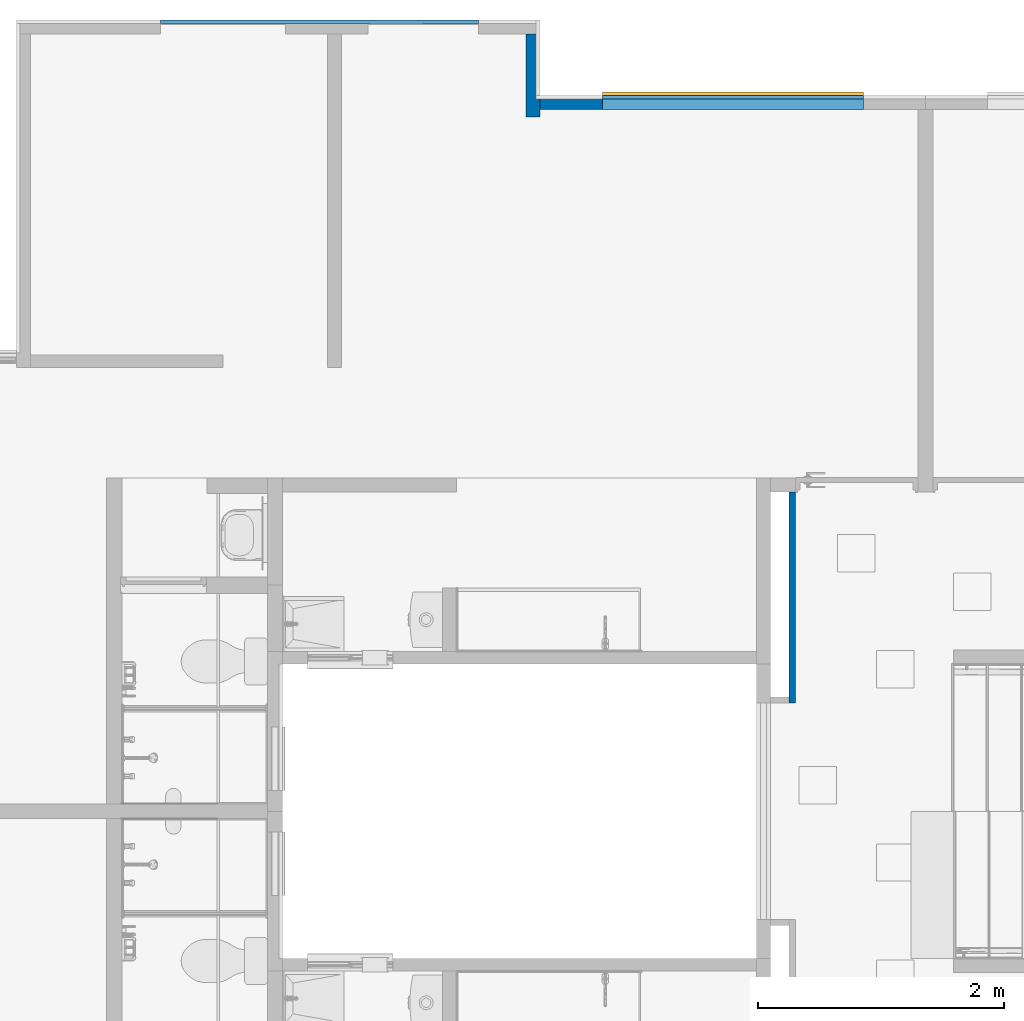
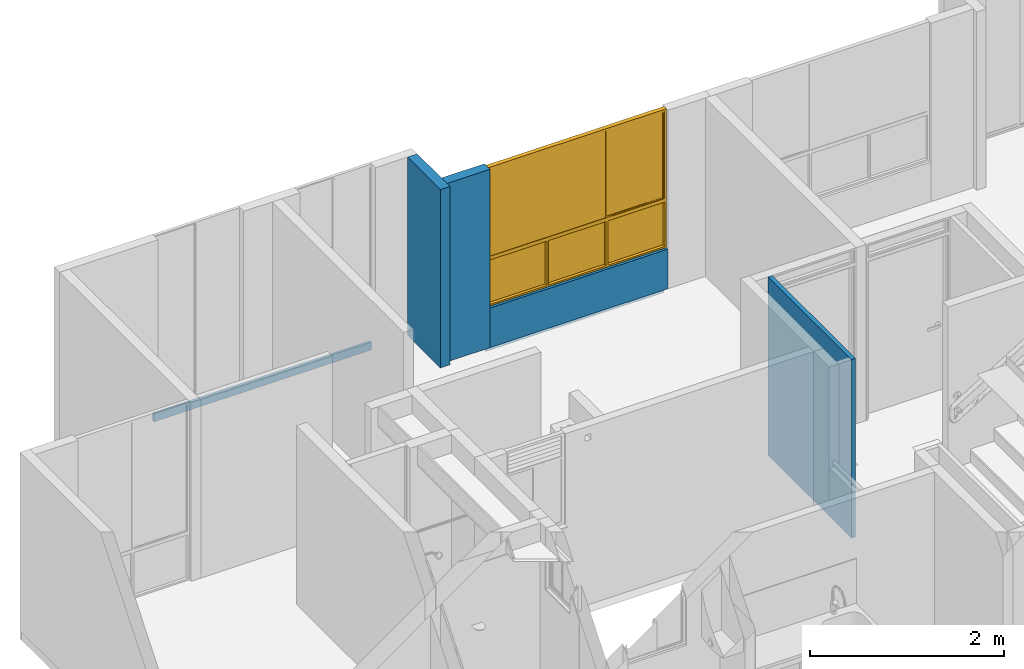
# One storey, part 19 of 48: 6 walls, 1 window, 1 opening.
"""IFC4 building model written with IfcOpenShell, lengths in metres."""

import ifcopenshell
import ifcopenshell.guid

model = None  # the IFC model being written
_history = None  # IfcOwnerHistory: only IFC2X3 demands one
_inside = {}  # id of a spatial element -> (the spatial element, [elements in it])
_under = {}  # id of a project, library or spatial element -> (it, [spatial elements below it])
_declared = {}  # id of a project -> (the project, [libraries it declares])
_typed = {}  # id of a type object -> (the type object, [elements of that type])
_made_of = {}  # id of a material, layer set ... -> (it, [elements and type objects made of it])


def new_model(schema):
    """Start an empty IFC model of exactly this schema.

    Asked for "IFC4X3", IfcOpenShell would pick the latest addendum, in which some entities
    have other attributes; the version numbers below select the first issue.
    IFC2X3 requires an IfcOwnerHistory on every rooted entity: one is made here for all.
    """
    global model, _history
    if schema == "IFC4X3":
        model = ifcopenshell.file(schema_version=(4, 3, 0, 0))
    else:
        model = ifcopenshell.file(schema=schema)
    _inside.clear()
    _under.clear()
    _declared.clear()
    _typed.clear()
    _made_of.clear()
    _history = None
    if model.schema == "IFC2X3":
        org = make("IfcOrganization", Name="unknown")
        user = make(
            "IfcPersonAndOrganization",
            ThePerson=make("IfcPerson", FamilyName="unknown"),
            TheOrganization=org,
        )
        app = make(
            "IfcApplication",
            ApplicationDeveloper=org,
            Version="unknown",
            ApplicationFullName="unknown",
            ApplicationIdentifier="unknown",
        )
        _history = make(
            "IfcOwnerHistory",
            OwningUser=user,
            OwningApplication=app,
            ChangeAction="ADDED",
            CreationDate=0,
        )
    return model


def make(cls, **values):
    """One entity of the class cls with the attributes given. An attribute that is None is left unset."""
    return model.create_entity(
        cls, **{name: value for name, value in values.items() if value is not None}
    )


def entity(cls, *values):
    """Any entity or typed value of the class cls, its attributes in the order of the schema. None: left unset."""
    e = model.create_entity(cls)
    for i, value in enumerate(values):
        if value is not None:
            e[i] = value
    return e


def rooted(cls, **values):
    """An entity with a GlobalId (a new one), such as an element, a storey or a relation."""
    return make(cls, GlobalId=ifcopenshell.guid.new(), OwnerHistory=_history, **values)


def si_unit(unit_type, name, prefix=None):
    """IfcSIUnit, for example si_unit("LENGTHUNIT", "METRE", prefix="MILLI")."""
    return make("IfcSIUnit", UnitType=unit_type, Prefix=prefix, Name=name)


def converted_unit(unit_type, name, factor, base, dimensions=None, offset=None):
    """IfcConversionBasedUnit, such as the inch: factor (a typed value) times the base unit."""
    return make(
        "IfcConversionBasedUnit"
        if offset is None
        else "IfcConversionBasedUnitWithOffset",
        ConversionOffset=offset,
        Dimensions=None
        if dimensions is None
        else entity("IfcDimensionalExponents", *dimensions),
        UnitType=unit_type,
        Name=name,
        ConversionFactor=make(
            "IfcMeasureWithUnit", ValueComponent=factor, UnitComponent=base
        ),
    )


def derived_unit(unit_type, elements):
    """IfcDerivedUnit: a product of units, each with its exponent."""
    return make(
        "IfcDerivedUnit",
        Elements=[
            make("IfcDerivedUnitElement", Unit=unit, Exponent=power)
            for unit, power in elements
        ],
        UnitType=unit_type,
    )


def assignment(units):
    """IfcUnitAssignment: the units of a project."""
    return None if units is None else make("IfcUnitAssignment", Units=units)


def point(xyz):
    """IfcCartesianPoint."""
    return None if xyz is None else make("IfcCartesianPoint", Coordinates=xyz)


def direction(xyz):
    """IfcDirection."""
    return None if xyz is None else make("IfcDirection", DirectionRatios=xyz)


def frame(location, z_axis=None, x_axis=None):
    """IfcAxis2Placement3D, a coordinate frame: its origin and axes. An axis left out is left unset."""
    return make(
        "IfcAxis2Placement3D",
        Location=point(location),
        Axis=direction(z_axis),
        RefDirection=direction(x_axis),
    )


def origin():
    """The frame at (0, 0, 0) with its axes left unset."""
    return frame((0.0, 0.0, 0.0))


def place(relative_to, where):
    """IfcLocalPlacement: puts the frame where relative to a parent placement (None: the world)."""
    return make(
        "IfcLocalPlacement", PlacementRelTo=relative_to, RelativePlacement=where
    )


def context(
    kind, dimensions, precision=None, world=None, true_north=None, identifier=None
):
    """IfcGeometricRepresentationContext, for example the 3D "Model" context."""
    return make(
        "IfcGeometricRepresentationContext",
        ContextIdentifier=identifier,
        ContextType=kind,
        CoordinateSpaceDimension=dimensions,
        Precision=precision,
        WorldCoordinateSystem=world,
        TrueNorth=true_north,
    )


def subcontext(parent, identifier, kind, view, scale=None):
    """IfcGeometricRepresentationSubContext, for example "Body" below "Model"."""
    return make(
        "IfcGeometricRepresentationSubContext",
        ContextIdentifier=identifier,
        ContextType=kind,
        ParentContext=parent,
        TargetScale=scale,
        TargetView=view,
    )


def project(units=None, contexts=None):
    """IfcProject with its units and contexts."""
    return rooted(
        "IfcProject",
        Name="project",
        RepresentationContexts=contexts,
        UnitsInContext=assignment(units),
    )


def spatial(cls, under=None, at=None, **own):
    """A site, building, storey or space (cls), placed at a placement, below another one or the project."""
    s = rooted(cls, ObjectPlacement=at, **own)
    if under is not None:
        _under.setdefault(under.id(), (under, []))[1].append(s)
    return s


def point_list(points):
    """IfcCartesianPointList2D or 3D."""
    cls = (
        "IfcCartesianPointList2D" if len(points[0]) == 2 else "IfcCartesianPointList3D"
    )
    return make(cls, CoordList=points)


def indexed_curve(points, segments=None, self_intersect=None):
    """IfcIndexedPolyCurve: lines and arcs through numbered points (the first is 1)."""
    return make(
        "IfcIndexedPolyCurve",
        Points=point_list(points),
        Segments=segments,
        SelfIntersect=self_intersect,
    )


def outline(outer, holes=None, kind="AREA"):
    """IfcArbitraryClosedProfileDef: a profile drawn as a closed curve; with holes, ...WithVoids."""
    if holes is None:
        return make("IfcArbitraryClosedProfileDef", ProfileType=kind, OuterCurve=outer)
    return make(
        "IfcArbitraryProfileDefWithVoids",
        ProfileType=kind,
        OuterCurve=outer,
        InnerCurves=holes,
    )


def extrude(swept, where, along, depth):
    """IfcExtrudedAreaSolid: the profile swept, set in the frame where, extruded along a direction by depth."""
    return make(
        "IfcExtrudedAreaSolid",
        SweptArea=swept,
        Position=where,
        ExtrudedDirection=direction(along),
        Depth=depth,
    )


def polygons(points, faces, closed=None, point_numbers=None):
    """IfcPolygonalFaceSet: a face is its outer loop, then its inner loops; points numbered from 1."""
    made = []
    for loops in faces:
        if len(loops) == 1:
            made.append(make("IfcIndexedPolygonalFace", CoordIndex=loops[0]))
        else:
            made.append(
                make(
                    "IfcIndexedPolygonalFaceWithVoids",
                    CoordIndex=loops[0],
                    InnerCoordIndices=loops[1:],
                )
            )
    return make(
        "IfcPolygonalFaceSet",
        Coordinates=point_list(points),
        Closed=closed,
        Faces=made,
        PnIndex=point_numbers,
    )


def shape(context_of_items, identifier, shape_type, items):
    """IfcShapeRepresentation: the items that make up one representation, for example the "Body"."""
    return make(
        "IfcShapeRepresentation",
        ContextOfItems=context_of_items,
        RepresentationIdentifier=identifier,
        RepresentationType=shape_type,
        Items=items,
    )


def source(mapping_origin, context_of_items, identifier, shape_type, items):
    """IfcRepresentationMap: a shape defined once, which mapped items show again and again."""
    return make(
        "IfcRepresentationMap",
        MappingOrigin=mapping_origin,
        MappedRepresentation=shape(context_of_items, identifier, shape_type, items),
    )


def transform(
    local_origin,
    x_axis=None,
    y_axis=None,
    z_axis=None,
    scale=None,
    scale2=None,
    scale3=None,
    uniform=True,
):
    """IfcCartesianTransformationOperator3D, or its non-uniform kind. x_axis, y_axis, z_axis: its Axis1, 2, 3."""
    if uniform:
        return make(
            "IfcCartesianTransformationOperator3D",
            Axis1=direction(x_axis),
            Axis2=direction(y_axis),
            LocalOrigin=point(local_origin),
            Scale=scale,
            Axis3=direction(z_axis),
        )
    return make(
        "IfcCartesianTransformationOperator3DnonUniform",
        Axis1=direction(x_axis),
        Axis2=direction(y_axis),
        LocalOrigin=point(local_origin),
        Scale=scale,
        Axis3=direction(z_axis),
        Scale2=scale2,
        Scale3=scale3,
    )


def mapped(mapping_source, mapping_target):
    """IfcMappedItem: shows the shape of a source again, moved by a transform."""
    return make(
        "IfcMappedItem", MappingSource=mapping_source, MappingTarget=mapping_target
    )


def material(Name=None, Category=None):
    """IfcMaterial."""
    return make("IfcMaterial", Name=Name, Category=Category)


def constituent(of_material, Name=None, Category=None, fraction=None):
    """IfcMaterialConstituent: one of the materials an element consists of."""
    return make(
        "IfcMaterialConstituent",
        Name=Name,
        Material=of_material,
        Fraction=fraction,
        Category=Category,
    )


def constituent_set(constituents=None, Name=None):
    """IfcMaterialConstituentSet."""
    return make(
        "IfcMaterialConstituentSet", Name=Name, MaterialConstituents=constituents
    )


def made_of(thing, what):
    """Note that an element or type object is made of a material, layer set ...; save() writes the relation."""
    if what is not None:
        _made_of.setdefault(what.id(), (what, []))[1].append(thing)
    return thing


def type_object(cls, material=None, **own):
    """A type object (cls), such as IfcWallType, which elements share."""
    return made_of(rooted(cls, **own), material)


def type_shapes(of_type, sources):
    """Give a type object the sources (RepresentationMaps) that its elements show as mapped items."""
    of_type.RepresentationMaps = sources


def element(
    cls,
    number,
    at=None,
    inside=None,
    cuts=None,
    type_object=None,
    material=None,
    context=None,
    identifier="Body",
    shape_type=None,
    held_by="IfcProductDefinitionShape",
    body=None,
    shapes=None,
    **own,
):
    """One element of the class cls, such as IfcWall. Its Tag is "e" and its number.

    at: its placement. inside: the storey or other place that contains it. cuts: it is an
    opening in that element (IfcRelVoidsElement). A single representation is given by context,
    identifier, shape_type and body (its items); several are given by shapes. held_by: the class
    of the entity that holds the representations. save() writes the other relations.
    """
    e = rooted(cls, Tag="e%d" % number, ObjectPlacement=at, **own)
    if body is not None:
        shapes = [shape(context, identifier, shape_type, body)]
    if shapes is not None:
        e.Representation = make(held_by, Representations=shapes)
    if inside is not None:
        _inside.setdefault(inside.id(), (inside, []))[1].append(e)
    if cuts is not None:
        rooted(
            "IfcRelVoidsElement", RelatingBuildingElement=cuts, RelatedOpeningElement=e
        )
    if type_object is not None:
        _typed.setdefault(type_object.id(), (type_object, []))[1].append(e)
    return made_of(e, material)


def fill(opening, filler):
    """IfcRelFillsElement: the door or window that sits in an opening."""
    return rooted(
        "IfcRelFillsElement",
        RelatingOpeningElement=opening,
        RelatedBuildingElement=filler,
    )


def aggregate(whole, parts):
    """IfcRelAggregates: a whole, such as a stair, and the parts it consists of."""
    return rooted("IfcRelAggregates", RelatingObject=whole, RelatedObjects=parts)


def save(model, path):
    """Write the relations noted so far, then the file.

    IfcRelAggregates (storeys below a building ...), IfcRelContainedInSpatialStructure (elements
    in a storey), IfcRelDefinesByType, IfcRelAssociatesMaterial and IfcRelDeclares: one each for
    every whole, place, type object, material and project.
    """
    for whole, parts in _under.values():
        aggregate(whole, parts)
    for where, things in _inside.values():
        rooted(
            "IfcRelContainedInSpatialStructure",
            RelatedElements=things,
            RelatingStructure=where,
        )
    for kind, things in _typed.values():
        rooted("IfcRelDefinesByType", RelatedObjects=things, RelatingType=kind)
    for what, things in _made_of.values():
        rooted("IfcRelAssociatesMaterial", RelatedObjects=things, RelatingMaterial=what)
    for by, libraries in _declared.values():
        rooted("IfcRelDeclares", RelatingContext=by, RelatedDefinitions=libraries)
    model.write(path)


model = new_model("IFC4")

# Units and contexts
model_context = context("Model", 3, precision=1e-05, world=origin(), true_north=direction((6.123031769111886e-17, 1.0)))
body_context = subcontext(model_context, "Body", "Model", "MODEL_VIEW")
ifc_project = project(units=[si_unit("LENGTHUNIT", "METRE"), si_unit("AREAUNIT", "SQUARE_METRE"), si_unit("VOLUMEUNIT", "CUBIC_METRE"), converted_unit("PLANEANGLEUNIT", "DEGREE", entity("IfcRatioMeasure", 0.017453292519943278), si_unit("PLANEANGLEUNIT", "RADIAN"), dimensions=[0, 0, 0, 0, 0, 0, 0]), si_unit("MASSUNIT", "GRAM", prefix="KILO"), derived_unit("MASSDENSITYUNIT", [(si_unit("MASSUNIT", "GRAM", prefix="KILO"), 1), (si_unit("LENGTHUNIT", "METRE"), -3)]), derived_unit("IONCONCENTRATIONUNIT", [(si_unit("MASSUNIT", "GRAM", prefix="KILO"), 1), (si_unit("LENGTHUNIT", "METRE"), -3)]), derived_unit("MOMENTOFINERTIAUNIT", [(si_unit("LENGTHUNIT", "METRE"), 4)]), si_unit("TIMEUNIT", "SECOND"), si_unit("FREQUENCYUNIT", "HERTZ"), si_unit("THERMODYNAMICTEMPERATUREUNIT", "DEGREE_CELSIUS"), derived_unit("THERMALTRANSMITTANCEUNIT", [(si_unit("MASSUNIT", "GRAM", prefix="KILO"), 1), (si_unit("THERMODYNAMICTEMPERATUREUNIT", "KELVIN"), -1), (si_unit("TIMEUNIT", "SECOND"), -3)]), derived_unit("THERMALCONDUCTANCEUNIT", [(si_unit("MASSUNIT", "GRAM", prefix="KILO"), 1), (si_unit("THERMODYNAMICTEMPERATUREUNIT", "KELVIN"), -1), (si_unit("TIMEUNIT", "SECOND"), -3), (si_unit("LENGTHUNIT", "METRE"), 1)]), derived_unit("VOLUMETRICFLOWRATEUNIT", [(si_unit("LENGTHUNIT", "METRE"), 3), (si_unit("TIMEUNIT", "SECOND"), -1)]), derived_unit("MASSFLOWRATEUNIT", [(si_unit("MASSUNIT", "GRAM", prefix="KILO"), 1), (si_unit("TIMEUNIT", "SECOND"), -1)]), derived_unit("ROTATIONALFREQUENCYUNIT", [(si_unit("TIMEUNIT", "SECOND"), -1)]), si_unit("ELECTRICCURRENTUNIT", "AMPERE"), si_unit("ELECTRICVOLTAGEUNIT", "VOLT"), si_unit("POWERUNIT", "WATT"), si_unit("FORCEUNIT", "NEWTON", prefix="KILO"), si_unit("ILLUMINANCEUNIT", "LUX"), si_unit("LUMINOUSFLUXUNIT", "LUMEN"), si_unit("LUMINOUSINTENSITYUNIT", "CANDELA"), derived_unit("USERDEFINED", [(si_unit("MASSUNIT", "GRAM", prefix="KILO"), -1), (si_unit("LENGTHUNIT", "METRE"), -2), (si_unit("TIMEUNIT", "SECOND"), 3), (si_unit("LUMINOUSFLUXUNIT", "LUMEN"), 1)]), derived_unit("USERDEFINED", [(si_unit("MASSUNIT", "GRAM", prefix="KILO"), 1), (si_unit("TIMEUNIT", "SECOND"), -3), (si_unit("LENGTHUNIT", "METRE"), 3), (si_unit("ELECTRICCURRENTUNIT", "AMPERE"), -2)]), derived_unit("SOUNDPOWERUNIT", [(si_unit("MASSUNIT", "GRAM", prefix="KILO"), 1), (si_unit("TIMEUNIT", "SECOND"), -3), (si_unit("LENGTHUNIT", "METRE"), 2)]), derived_unit("SOUNDPRESSUREUNIT", [(si_unit("MASSUNIT", "GRAM", prefix="KILO"), 1), (si_unit("LENGTHUNIT", "METRE"), -1), (si_unit("TIMEUNIT", "SECOND"), -2)]), derived_unit("LINEARVELOCITYUNIT", [(si_unit("LENGTHUNIT", "METRE"), 1), (si_unit("TIMEUNIT", "SECOND"), -1)]), si_unit("PRESSUREUNIT", "PASCAL"), derived_unit("USERDEFINED", [(si_unit("MASSUNIT", "GRAM", prefix="KILO"), 1), (si_unit("LENGTHUNIT", "METRE"), -2), (si_unit("TIMEUNIT", "SECOND"), -2)]), derived_unit("LINEARFORCEUNIT", [(si_unit("MASSUNIT", "GRAM", prefix="KILO"), 1), (si_unit("TIMEUNIT", "SECOND"), -2)]), derived_unit("PLANARFORCEUNIT", [(si_unit("MASSUNIT", "GRAM", prefix="KILO"), 1), (si_unit("LENGTHUNIT", "METRE"), -1), (si_unit("TIMEUNIT", "SECOND"), -2)]), derived_unit("SPECIFICHEATCAPACITYUNIT", [(si_unit("THERMODYNAMICTEMPERATUREUNIT", "KELVIN"), -1), (si_unit("LENGTHUNIT", "METRE"), 2), (si_unit("TIMEUNIT", "SECOND"), -2)]), derived_unit("HEATINGVALUEUNIT", [(si_unit("LENGTHUNIT", "METRE"), 2), (si_unit("TIMEUNIT", "SECOND"), -2)]), derived_unit("VAPORPERMEABILITYUNIT", [(si_unit("LENGTHUNIT", "METRE"), -1), (si_unit("TIMEUNIT", "SECOND"), 1)]), derived_unit("DYNAMICVISCOSITYUNIT", [(si_unit("MASSUNIT", "GRAM", prefix="KILO"), 1), (si_unit("TIMEUNIT", "SECOND"), -1), (si_unit("LENGTHUNIT", "METRE"), -1)]), derived_unit("THERMALEXPANSIONCOEFFICIENTUNIT", [(si_unit("THERMODYNAMICTEMPERATUREUNIT", "KELVIN"), -1)]), derived_unit("MODULUSOFELASTICITYUNIT", [(si_unit("MASSUNIT", "GRAM", prefix="KILO"), 1), (si_unit("LENGTHUNIT", "METRE"), -1), (si_unit("TIMEUNIT", "SECOND"), -2)]), derived_unit("ISOTHERMALMOISTURECAPACITYUNIT", [(si_unit("LENGTHUNIT", "METRE"), 3), (si_unit("MASSUNIT", "GRAM", prefix="KILO"), -1)]), derived_unit("MOISTUREDIFFUSIVITYUNIT", [(si_unit("TIMEUNIT", "SECOND"), -1), (si_unit("LENGTHUNIT", "METRE"), 2)])], contexts=[model_context])

# Site, building, storey
site_placement = place(None, origin())
site = spatial("IfcSite", under=ifc_project, at=site_placement, Name="Default", CompositionType="ELEMENT")
building_placement = place(site_placement, origin())
building = spatial("IfcBuilding", under=site, at=building_placement, CompositionType="ELEMENT")
storey_placement = place(building_placement, frame((0.0, 0.0, 9.40000000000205)))
storey = spatial("IfcBuildingStorey", under=building, at=storey_placement, Name="Nivel 5", CompositionType="ELEMENT", Elevation=9.40000000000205)

# Wall
ifc_material_1 = material(Name="Ladrillo claro (Aire)", Category="Materials")
wall_type_1 = type_object("IfcWallType", Name="Basic Wall:B2010 - 0.115m - Muro exterior en mampostería - Ladrillo", PredefinedType="STANDARD")
wall_1_placement = place(storey_placement, frame((6.124999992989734, -0.09500002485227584, 0.0), z_axis=(0.0, 0.0, 1.0), x_axis=(0.0, -1.0, 0.0)))
element("IfcWall", 1, at=wall_1_placement, inside=storey, type_object=wall_type_1, material=ifc_material_1, Name="Basic Wall:B2010 - 0.115m - Muro exterior en mampostería - Ladrillo", ObjectType="Basic Wall:B2010 - 0.115m - Muro exterior en mampostería - Ladrillo", PredefinedType="NOTDEFINED", context=body_context, shape_type="SweptSolid", body=[
    extrude(outline(indexed_curve([(0.674918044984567, 0.05749999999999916), (1.6929241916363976e-18, 0.057499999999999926), (-1.6929241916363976e-18, -0.057499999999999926), (0.674918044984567, -0.05750000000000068), (0.674918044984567, 0.05749999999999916)], self_intersect=False)), origin(), (0.0, 0.0, 1.0), 2.25000000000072),
])

# Wall, opening, window
wall_2_placement = place(storey_placement, frame((6.692499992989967, -0.6525000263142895, 0.0)))
wall_2 = element("IfcWall", 2, at=wall_2_placement, inside=storey, type_object=wall_type_1, material=ifc_material_1, Name="Basic Wall:B2010 - 0.115m - Muro exterior en mampostería - Ladrillo", ObjectType="Basic Wall:B2010 - 0.115m - Muro exterior en mampostería - Ladrillo", PredefinedType="NOTDEFINED", context=body_context, shape_type="Tessellation", body=[
    polygons([(4.788365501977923e-16, -0.05750000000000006, -1.0828671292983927e-15), (2.1249999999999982, -0.05750000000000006, -1.0828671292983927e-15), (2.1249999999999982, -0.05750000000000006, 0.5000000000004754), (4.788365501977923e-16, -0.05750000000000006, 0.5000000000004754), (2.1249999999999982, 0.05749999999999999, -1.0828671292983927e-15), (5.461691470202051e-16, 0.05749999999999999, -1.0828671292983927e-15), (5.461691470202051e-16, 0.05749999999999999, 0.5000000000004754), (2.1249999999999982, 0.05749999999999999, 0.5000000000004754)], [[[1, 2, 3, 4]], [[5, 6, 7, 8]], [[2, 1, 6, 5]], [[2, 5, 8, 3]], [[6, 1, 4, 7]], [[4, 3, 8, 7]]], closed=True),
])
opening_placement = place(wall_2_placement, frame((0.0, -0.0575000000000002, 0.5000000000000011)))
opening = element("IfcOpeningElement", 3, at=opening_placement, cuts=wall_2, Name="B2020 - 6c Ventana corrediza - Aluminio + Vidrio:B2020 -2.13m x 1.750m - Ventana corrediza 2C - Aluminio + Vidrio:1", PredefinedType="OPENING", context=body_context, shape_type="SweptSolid", body=[
    extrude(outline(indexed_curve([(0.0, 2.125), (0.0, 0.0), (1.7499999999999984, 0.0), (1.7499999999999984, 2.125), (0.0, 2.125)], self_intersect=False)), frame((0.0, 0.0, 0.0), z_axis=(0.0, 1.0, 0.0), x_axis=(0.0, 0.0, 1.0)), (0.0, 0.0, 1.0), 0.115),
])
ifc_material_2 = material(Name="Aluminio", Category="Materials")
ifc_constituent_1 = constituent(ifc_material_2, Name="Aluminio", Category="Materials")
ifc_material_3 = material(Name="Vidrio", Category="Materials")
ifc_constituent_2 = constituent(ifc_material_3, Name="Vidrio", Category="Materials")
ifc_material_4 = material(Name="Alfajía en aluminio", Category="Materials")
ifc_constituent_3 = constituent(ifc_material_4, Name="Alfajía en aluminio", Category="Materials")
ifc_constituent_set_1 = constituent_set(constituents=[ifc_constituent_1, ifc_constituent_2, ifc_constituent_3])
ifc_constituent_4 = constituent(ifc_material_2, Name="Aluminio", Category="Materials")
ifc_constituent_5 = constituent(ifc_material_3, Name="Vidrio", Category="Materials")
ifc_constituent_6 = constituent(ifc_material_4, Name="Alfajía en aluminio", Category="Materials")
ifc_constituent_set_2 = constituent_set(constituents=[ifc_constituent_4, ifc_constituent_5, ifc_constituent_6])
window_type = type_object("IfcWindowType", Name="B2020 - 6c Ventana corrediza - Aluminio + Vidrio:B2020 -2.13m x 1.750m - Ventana corrediza 2C - Aluminio + Vidrio", PartitioningType="NOTDEFINED", PredefinedType="WINDOW", material=ifc_constituent_set_2)
shared_shape = source(origin(), body_context, "Body", "Tessellation", [
    polygons([(1.3916666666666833, 0.03749999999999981, 1.7249999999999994), (1.3916666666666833, 0.03749999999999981, 0.6249999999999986), (1.391666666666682, 0.032499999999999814, 0.6249999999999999), (1.3916666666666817, 0.032499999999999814, 1.7249999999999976), (-0.6833333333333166, 0.03249999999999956, 0.6249999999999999), (-0.6833333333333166, 0.032499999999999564, 1.7249999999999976), (-0.7083333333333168, 0.03249999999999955, 0.5999999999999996), (1.4166666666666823, 0.032499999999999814, 0.5999999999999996), (1.4166666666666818, 0.032499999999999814, 1.749999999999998), (-0.7083333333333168, 0.03249999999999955, 1.749999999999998), (-0.6833333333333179, 0.03749999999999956, 0.6249999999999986), (-0.6833333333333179, 0.03749999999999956, 1.7249999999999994), (-0.6883333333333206, 0.03749999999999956, 0.6199999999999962), (-0.6883333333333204, 0.03749999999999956, 1.7300000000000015), (1.3966666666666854, 0.03749999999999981, 1.7300000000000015), (1.3966666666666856, 0.03749999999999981, 0.6199999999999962), (1.3966666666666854, 0.05499999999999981, 1.7300000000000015), (1.3966666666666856, 0.05499999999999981, 0.6199999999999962), (-0.6883333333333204, 0.05499999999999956, 0.6199999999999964), (-0.6883333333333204, 0.05499999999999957, 1.7300000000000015), (-0.6833333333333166, 0.05499999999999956, 0.6249999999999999), (-0.6833333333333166, 0.05499999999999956, 1.7249999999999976), (1.3916666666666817, 0.05499999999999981, 1.7249999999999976), (1.391666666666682, 0.05499999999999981, 0.6249999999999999), (1.3916666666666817, 0.05999999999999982, 1.7249999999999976), (1.391666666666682, 0.05999999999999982, 0.6249999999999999), (-0.6833333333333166, 0.059999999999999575, 0.6249999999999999), (-0.6833333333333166, 0.059999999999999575, 1.7249999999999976), (-0.7033333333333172, 0.05999999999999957, 0.6049999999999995), (-0.7033333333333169, 0.05999999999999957, 1.744999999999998), (1.411666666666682, 0.05999999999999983, 1.744999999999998), (1.4116666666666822, 0.05999999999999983, 0.6049999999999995), (1.411666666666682, 0.07749999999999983, 1.744999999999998), (1.4116666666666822, 0.07749999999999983, 0.6049999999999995), (-0.7033333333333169, 0.07749999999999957, 0.6049999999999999), (-0.7033333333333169, 0.07749999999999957, 1.744999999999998), (-0.6833333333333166, 0.07749999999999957, 0.6249999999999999), (-0.6833333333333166, 0.07749999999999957, 1.7249999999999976), (1.3916666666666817, 0.07749999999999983, 1.7249999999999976), (1.391666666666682, 0.07749999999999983, 0.6249999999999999), (1.3916666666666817, 0.08249999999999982, 1.7249999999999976), (1.391666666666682, 0.08249999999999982, 0.6249999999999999), (-0.6833333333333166, 0.08249999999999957, 0.6249999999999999), (-0.6833333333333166, 0.08249999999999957, 1.7249999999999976), (-0.7083333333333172, 0.08249999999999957, 0.5999999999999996), (-0.7083333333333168, 0.08249999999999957, 1.749999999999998), (1.4166666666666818, 0.08249999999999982, 1.749999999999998), (1.4166666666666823, 0.08249999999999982, 0.5999999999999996)], [[[1, 2, 3, 4]], [[7, 8, 9, 10], [5, 6, 4, 3]], [[2, 11, 5, 3]], [[13, 14, 15, 16], [11, 2, 1, 12]], [[17, 18, 16, 15]], [[18, 19, 13, 16]], [[19, 18, 17, 20], [21, 22, 23, 24]], [[25, 26, 24, 23]], [[26, 27, 21, 24]], [[29, 30, 31, 32], [27, 26, 25, 28]], [[33, 34, 32, 31]], [[34, 35, 29, 32]], [[35, 34, 33, 36], [37, 38, 39, 40]], [[41, 42, 40, 39]], [[42, 43, 37, 40]], [[45, 46, 47, 48], [43, 42, 41, 44]], [[9, 8, 48, 47]], [[8, 7, 45, 48]], [[11, 12, 6, 5]], [[19, 20, 14, 13]], [[27, 28, 22, 21]], [[35, 36, 30, 29]], [[43, 44, 38, 37]], [[7, 10, 46, 45]], [[12, 1, 4, 6]], [[20, 17, 15, 14]], [[28, 25, 23, 22]], [[36, 33, 31, 30]], [[44, 41, 39, 38]], [[10, 9, 47, 46]]], closed=True),
    polygons([(-0.009999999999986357, 0.08249999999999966, 0.6249999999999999), (0.010000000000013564, 0.08249999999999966, 0.6249999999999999), (0.010000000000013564, 0.05999999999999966, 0.6249999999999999), (-0.009999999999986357, 0.05999999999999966, 0.6249999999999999), (-0.009999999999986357, 0.08249999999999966, 1.7249999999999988), (-0.009999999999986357, 0.05999999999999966, 1.7249999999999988), (0.010000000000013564, 0.05999999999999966, 1.7249999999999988), (0.010000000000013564, 0.08249999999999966, 1.7249999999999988)], [[[1, 2, 3, 4]], [[5, 1, 4, 6]], [[6, 4, 3, 7]], [[7, 3, 2, 8]], [[8, 2, 1, 5]], [[5, 6, 7, 8]]], closed=True),
    polygons([(0.7108333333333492, 0.06674999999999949, 1.7299999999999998), (-0.6833333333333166, 0.06674999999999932, 1.7299999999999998), (-0.6833333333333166, 0.06674999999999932, 0.6174999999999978), (0.7108333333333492, 0.06674999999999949, 0.6174999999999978), (0.7108333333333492, 0.0707499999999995, 0.6174999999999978), (0.7108333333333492, 0.0707499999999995, 1.7299999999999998), (-0.6833333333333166, 0.07074999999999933, 0.6174999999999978), (-0.6833333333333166, 0.07074999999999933, 1.7299999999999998)], [[[1, 2, 3, 4]], [[4, 5, 6, 1]], [[3, 7, 5, 4]], [[2, 8, 7, 3]], [[6, 5, 7, 8]], [[1, 6, 8, 2]]], closed=True),
    polygons([(0.7108333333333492, 0.07074999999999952, 0.6225000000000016), (-0.6783333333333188, 0.07074999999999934, 0.6225000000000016), (-0.6783333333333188, 0.06674999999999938, 0.6225000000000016), (0.7108333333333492, 0.06674999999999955, 0.6225000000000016), (-0.6783333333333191, 0.07074999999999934, 1.730000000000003), (-0.6783333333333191, 0.06674999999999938, 1.730000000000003), (0.7108333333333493, 0.06674999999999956, 1.730000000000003), (-0.6633333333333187, 0.06674999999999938, 1.7150000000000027), (-0.6633333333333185, 0.06674999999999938, 0.637500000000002), (0.695833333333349, 0.06674999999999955, 0.637500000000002), (0.695833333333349, 0.06674999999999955, 1.7150000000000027), (0.7108333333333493, 0.07074999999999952, 1.730000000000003), (-0.6633333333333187, 0.07074999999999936, 0.637500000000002), (-0.6633333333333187, 0.07074999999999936, 1.7150000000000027), (0.695833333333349, 0.07074999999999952, 1.7150000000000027), (0.695833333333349, 0.07074999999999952, 0.6375000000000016), (0.695833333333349, 0.07549999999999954, 0.637500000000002), (-0.6633333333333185, 0.07549999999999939, 0.6375000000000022), (-0.6633333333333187, 0.07549999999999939, 1.7150000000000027), (0.695833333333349, 0.07549999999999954, 1.7150000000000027), (-0.6833333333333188, 0.07549999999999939, 0.6175000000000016), (-0.683333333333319, 0.07549999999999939, 1.735000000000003), (0.7158333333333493, 0.07549999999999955, 1.735000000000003), (0.7158333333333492, 0.07549999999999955, 0.6175000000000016), (0.7158333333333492, 0.06199999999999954, 0.6175000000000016), (-0.6833333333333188, 0.061999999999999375, 0.6175000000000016), (-0.683333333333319, 0.061999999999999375, 1.735000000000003), (0.7158333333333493, 0.06199999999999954, 1.735000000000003), (-0.6633333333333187, 0.06199999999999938, 0.637500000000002), (-0.6633333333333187, 0.06199999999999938, 1.7150000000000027), (0.695833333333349, 0.06199999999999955, 1.7150000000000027), (0.695833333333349, 0.06199999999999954, 0.6375000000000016)], [[[1, 2, 3, 4]], [[2, 5, 6, 3]], [[3, 6, 7, 4], [8, 9, 10, 11]], [[5, 2, 1, 12], [13, 14, 15, 16]], [[17, 18, 13, 16]], [[18, 19, 14, 13]], [[21, 22, 23, 24], [19, 18, 17, 20]], [[25, 26, 21, 24]], [[26, 27, 22, 21]], [[27, 26, 25, 28], [29, 30, 31, 32]], [[10, 9, 29, 32]], [[9, 8, 30, 29]], [[12, 1, 4, 7]], [[20, 17, 16, 15]], [[28, 25, 24, 23]], [[11, 10, 32, 31]], [[5, 12, 7, 6]], [[19, 20, 15, 14]], [[27, 28, 23, 22]], [[8, 11, 31, 30]]], closed=True),
    polygons([(1.3916666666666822, 0.04424999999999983, 1.7299999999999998), (0.7033333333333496, 0.04424999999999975, 1.7299999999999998), (0.7033333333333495, 0.04424999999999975, 0.6174999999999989), (1.391666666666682, 0.04424999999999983, 0.6174999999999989), (1.391666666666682, 0.04824999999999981, 0.6174999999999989), (1.3916666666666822, 0.04824999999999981, 1.7299999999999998), (0.7033333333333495, 0.048249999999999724, 0.6174999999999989), (0.7033333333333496, 0.048249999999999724, 1.7299999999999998)], [[[1, 2, 3, 4]], [[4, 5, 6, 1]], [[3, 7, 5, 4]], [[2, 8, 7, 3]], [[6, 5, 7, 8]], [[1, 6, 8, 2]]], closed=True),
    polygons([(1.391666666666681, 0.04824999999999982, 0.6224999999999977), (0.7033333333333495, 0.04824999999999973, 0.6224999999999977), (0.7033333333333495, 0.044249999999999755, 0.6224999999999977), (1.391666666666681, 0.04424999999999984, 0.6224999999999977), (0.7033333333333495, 0.04824999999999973, 1.729999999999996), (0.7033333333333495, 0.044249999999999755, 1.729999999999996), (1.391666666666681, 0.04424999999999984, 1.729999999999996), (0.7183333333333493, 0.044249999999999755, 1.714999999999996), (0.7183333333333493, 0.044249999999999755, 0.6374999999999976), (1.3766666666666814, 0.04424999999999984, 0.6374999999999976), (1.3766666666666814, 0.04424999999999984, 1.714999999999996), (1.391666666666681, 0.04824999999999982, 1.729999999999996), (0.7183333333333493, 0.04824999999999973, 0.6374999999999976), (0.7183333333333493, 0.04824999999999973, 1.714999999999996), (1.3766666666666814, 0.04824999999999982, 1.714999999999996), (1.3766666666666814, 0.04824999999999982, 0.6374999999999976), (1.3766666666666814, 0.052999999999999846, 0.6374999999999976), (0.7183333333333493, 0.05299999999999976, 0.6374999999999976), (0.7183333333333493, 0.05299999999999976, 1.714999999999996), (1.3766666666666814, 0.052999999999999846, 1.714999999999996), (0.6983333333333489, 0.052999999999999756, 0.6174999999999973), (0.6983333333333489, 0.05299999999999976, 1.7349999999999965), (1.3966666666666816, 0.052999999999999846, 1.7349999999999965), (1.3966666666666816, 0.052999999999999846, 0.6174999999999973), (1.3966666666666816, 0.03949999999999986, 0.6174999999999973), (0.6983333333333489, 0.03949999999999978, 0.6174999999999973), (0.6983333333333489, 0.03949999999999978, 1.7349999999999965), (1.3966666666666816, 0.03949999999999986, 1.7349999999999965), (0.7183333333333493, 0.039499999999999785, 0.6374999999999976), (0.7183333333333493, 0.03949999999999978, 1.714999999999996), (1.3766666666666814, 0.039499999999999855, 1.714999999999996), (1.3766666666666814, 0.039499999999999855, 0.6374999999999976)], [[[1, 2, 3, 4]], [[2, 5, 6, 3]], [[3, 6, 7, 4], [8, 9, 10, 11]], [[5, 2, 1, 12], [13, 14, 15, 16]], [[17, 18, 13, 16]], [[18, 19, 14, 13]], [[21, 22, 23, 24], [19, 18, 17, 20]], [[25, 26, 21, 24]], [[26, 27, 22, 21]], [[27, 26, 25, 28], [29, 30, 31, 32]], [[10, 9, 29, 32]], [[9, 8, 30, 29]], [[12, 1, 4, 7]], [[20, 17, 16, 15]], [[28, 25, 24, 23]], [[11, 10, 32, 31]], [[5, 12, 7, 6]], [[19, 20, 15, 14]], [[27, 28, 23, 22]], [[8, 11, 31, 30]]], closed=True),
    polygons([(-0.6883333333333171, 0.04424999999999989, 1.7299999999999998), (-0.6883333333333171, 0.04424999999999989, 0.6174999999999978), (1.3916666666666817, 0.04424999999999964, 0.6174999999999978), (1.3916666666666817, 0.04424999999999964, 1.7299999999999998), (1.3916666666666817, 0.04824999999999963, 0.6174999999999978), (1.3916666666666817, 0.04824999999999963, 1.7299999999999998), (-0.6883333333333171, 0.04824999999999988, 0.6174999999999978), (-0.6883333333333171, 0.04824999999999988, 1.7299999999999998)], [[[1, 2, 3, 4]], [[3, 5, 6, 4]], [[2, 7, 5, 3]], [[1, 8, 7, 2]], [[8, 6, 5, 7]], [[4, 6, 8, 1]]], closed=True),
    polygons([(1.3966666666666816, 0.06674999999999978, 1.7299999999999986), (-0.6883333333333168, 0.06674999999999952, 1.7299999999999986), (-0.6883333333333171, 0.06674999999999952, 0.6174999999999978), (1.3966666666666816, 0.06674999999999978, 0.6174999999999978), (1.3966666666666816, 0.07074999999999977, 0.6174999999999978), (1.3966666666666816, 0.07074999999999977, 1.7299999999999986), (-0.6883333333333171, 0.07074999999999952, 0.6174999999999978), (-0.6883333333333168, 0.07074999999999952, 1.7299999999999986)], [[[1, 2, 3, 4]], [[4, 5, 6, 1]], [[3, 7, 5, 4]], [[2, 8, 7, 3]], [[6, 5, 7, 8]], [[1, 6, 8, 2]]], closed=True),
    polygons([(1.3966666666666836, 0.06813901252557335, 0.5800000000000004), (-0.6883333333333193, 0.06813901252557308, 0.5800000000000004), (-0.6883333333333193, 0.06813901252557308, 0.019999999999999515), (1.3966666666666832, 0.06813901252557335, 0.019999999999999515), (1.3966666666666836, 0.07213901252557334, 0.5800000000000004), (1.3966666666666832, 0.07213901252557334, 0.019999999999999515), (-0.6883333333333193, 0.07213901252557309, 0.019999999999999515), (-0.6883333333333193, 0.07213901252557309, 0.5800000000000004)], [[[1, 2, 3, 4]], [[5, 6, 7, 8]], [[4, 6, 5, 1]], [[3, 7, 6, 4]], [[2, 8, 7, 3]], [[1, 5, 8, 2]]], closed=True),
    polygons([(-0.009999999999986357, 0.08250000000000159, 0.5799999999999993), (-0.009999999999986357, 0.03250000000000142, 0.5799999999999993), (0.010000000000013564, 0.03250000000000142, 0.5799999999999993), (0.010000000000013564, 0.08250000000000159, 0.5799999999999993), (-0.009999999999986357, 0.08250000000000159, 0.019999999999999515), (0.010000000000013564, 0.08250000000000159, 0.019999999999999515), (0.010000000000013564, 0.03250000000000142, 0.019999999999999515), (-0.009999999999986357, 0.03250000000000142, 0.019999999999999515)], [[[1, 2, 3, 4]], [[5, 6, 7, 8]], [[4, 6, 5, 1]], [[3, 7, 6, 4]], [[2, 8, 7, 3]], [[1, 5, 8, 2]]], closed=True),
    polygons([(1.4166666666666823, 0.08249999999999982, 2.707167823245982e-16), (-0.7083333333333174, 0.08249999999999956, 4.060751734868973e-16), (-0.7083333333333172, 0.08249999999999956, 0.5999999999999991), (1.4166666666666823, 0.08249999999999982, 0.5999999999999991), (0.6983333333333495, 0.08250000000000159, 0.5799999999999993), (-0.6883333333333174, 0.0825000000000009, 0.5799999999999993), (-0.6883333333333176, 0.0825000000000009, 0.020000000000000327), (0.6983333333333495, 0.08250000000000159, 0.01999999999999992), (0.7183333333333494, 0.08250000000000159, 0.01999999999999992), (1.3966666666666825, 0.08250000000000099, 0.020000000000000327), (1.3966666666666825, 0.08250000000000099, 0.5799999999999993), (0.7183333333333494, 0.08250000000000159, 0.5799999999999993), (0.7183333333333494, 0.03250000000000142, 0.5799999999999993), (0.7183333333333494, 0.03250000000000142, 0.01999999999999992), (1.4166666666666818, 0.03250000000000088, 0.5999999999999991), (-0.7083333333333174, 0.0325000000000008, 0.5999999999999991), (-0.7083333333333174, 0.0325000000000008, 4.060751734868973e-16), (1.4166666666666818, 0.03250000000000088, 4.060751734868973e-16), (1.3966666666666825, 0.032499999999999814, 0.5799999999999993), (1.3966666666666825, 0.032499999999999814, 0.020000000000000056), (0.6983333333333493, 0.03250000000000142, 0.01999999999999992), (-0.6883333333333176, 0.03249999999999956, 0.020000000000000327), (-0.6883333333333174, 0.03249999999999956, 0.5799999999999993), (0.6983333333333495, 0.03250000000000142, 0.5799999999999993)], [[[1, 2, 3, 4], [5, 6, 7, 8], [9, 10, 11, 12]], [[12, 13, 14, 9]], [[15, 16, 17, 18], [13, 19, 20, 14], [21, 22, 23, 24]], [[8, 21, 24, 5]], [[11, 10, 20, 19]], [[15, 18, 1, 4]], [[10, 9, 14, 20]], [[18, 17, 2, 1]], [[7, 6, 23, 22]], [[17, 16, 3, 2]], [[6, 5, 24, 23]], [[4, 3, 16, 15]], [[19, 13, 12, 11]], [[22, 21, 8, 7]]], closed=True),
    polygons([(0.6983333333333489, 0.07213901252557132, 0.5849999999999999), (-0.6883333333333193, 0.07213901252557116, 0.5849999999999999), (-0.6883333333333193, 0.06813901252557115, 0.5849999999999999), (0.6983333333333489, 0.06813901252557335, 0.5849999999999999), (0.6983333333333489, 0.07213901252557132, 0.019999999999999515), (0.6983333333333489, 0.06813901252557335, 0.019999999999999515), (-0.6883333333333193, 0.06813901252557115, 0.019999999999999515), (-0.6883333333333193, 0.07213901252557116, 0.019999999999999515)], [[[1, 2, 3, 4]], [[5, 6, 7, 8]], [[1, 5, 8, 2]], [[2, 8, 7, 3]], [[3, 7, 6, 4]], [[4, 6, 5, 1]]], closed=True),
    polygons([(1.4166666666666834, 0.11499999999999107, -4.060751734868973e-16), (1.416666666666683, 0.1409807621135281, -0.015000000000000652), (1.416666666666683, 0.14348076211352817, -0.010669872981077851), (1.4166666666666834, 0.11633974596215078, 0.0049999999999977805), (1.4166666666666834, 0.08249999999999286, 0.0049999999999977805), (1.4166666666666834, 0.08249999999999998, -4.060751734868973e-16), (-0.7083333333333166, 0.11499999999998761, -4.060751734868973e-16), (-0.7083333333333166, 0.08249999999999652, -4.060751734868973e-16), (-0.7083333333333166, 0.0824999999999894, 0.0049999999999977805), (-0.7083333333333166, 0.11633974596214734, 0.0049999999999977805), (-0.7083333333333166, 0.1434807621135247, -0.010669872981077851), (-0.7083333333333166, 0.14098076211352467, -0.015000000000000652)], [[[1, 2, 3, 4, 5, 6]], [[7, 8, 9, 10, 11, 12]], [[6, 8, 7, 1]], [[5, 9, 8, 6]], [[4, 10, 9, 5]], [[3, 11, 10, 4]], [[2, 12, 11, 3]], [[1, 7, 12, 2]]], closed=True),
    polygons([(0.7183333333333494, 0.07213901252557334, 0.5849999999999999), (0.7183333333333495, 0.06813901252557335, 0.5849999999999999), (1.3966666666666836, 0.06813901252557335, 0.5849999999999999), (1.3966666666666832, 0.07213901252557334, 0.5849999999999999), (0.7183333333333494, 0.07213901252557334, 0.019999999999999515), (1.3966666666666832, 0.07213901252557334, 0.019999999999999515), (1.3966666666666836, 0.06813901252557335, 0.019999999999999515), (0.7183333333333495, 0.06813901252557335, 0.019999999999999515)], [[[1, 2, 3, 4]], [[5, 6, 7, 8]], [[4, 6, 5, 1]], [[3, 7, 6, 4]], [[2, 8, 7, 3]], [[1, 5, 8, 2]]], closed=True),
])
type_shapes(window_type, [shared_shape])
window_placement = place(opening_placement, frame((0.7083333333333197, 0.0, 0.0)))
window = element("IfcWindow", 4, at=window_placement, inside=storey, type_object=window_type, material=ifc_constituent_set_1, Name="B2020 - 6c Ventana corrediza - Aluminio + Vidrio:B2020 -2.13m x 1.750m - Ventana corrediza 2C - Aluminio + Vidrio", ObjectType="B2020 - 6c Ventana corrediza - Aluminio + Vidrio:B2020 -2.13m x 1.750m - Ventana corrediza 2C - Aluminio + Vidrio", OverallHeight=1.7499999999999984, OverallWidth=2.125, PartitioningType="NOTDEFINED", PredefinedType="WINDOW", context=body_context, shape_type="MappedRepresentation", body=[
    mapped(shared_shape, transform((0.0, 0.0, 0.0), scale=1.0)),
])
fill(opening, window)

# Walls
ifc_material_5 = material(Name="LADRILLO CLARO", Category="Materials")
wall_type_2 = type_object("IfcWallType", Name="Basic Wall:B2010 - 0.115m - ME mampostería no estructural - Ladrillo", PredefinedType="STANDARD")
wall_3_placement = place(storey_placement, frame((6.1824999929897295, -0.652500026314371, 0.0)))
element("IfcWall", 5, at=wall_3_placement, inside=storey, type_object=wall_type_2, material=ifc_material_5, Name="Basic Wall:B2010 - 0.115m - ME mampostería no estructural - Ladrillo", ObjectType="Basic Wall:B2010 - 0.115m - ME mampostería no estructural - Ladrillo", PredefinedType="NOTDEFINED", context=body_context, shape_type="SweptSolid", body=[
    extrude(outline(indexed_curve([(0.5100000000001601, 0.0574999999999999), (-1.646998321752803e-16, 0.057499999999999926), (1.6469983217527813e-16, -0.05750000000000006), (0.5100000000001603, -0.057500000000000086), (0.5100000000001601, 0.0574999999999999)], self_intersect=False)), origin(), (0.0, 0.0, 1.0), 2.2500000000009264),
])
ifc_material_6 = material(Name="0 muro divisorio", Category="Materials")
wall_type_3 = type_object("IfcWallType", Name="Basic Wall:B2010 - 0.05m - MI No estructural- Concreto", PredefinedType="STANDARD")
wall_4_placement = place(storey_placement, frame((8.237500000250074, -5.545000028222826, 0.0), z_axis=(0.0, 0.0, 1.0), x_axis=(0.0, 1.0, 0.0)))
element("IfcWall", 6, at=wall_4_placement, inside=storey, type_object=wall_type_3, material=ifc_material_6, Name="Basic Wall:B2010 - 0.05m - MI No estructural- Concreto", ObjectType="Basic Wall:B2010 - 0.05m - MI No estructural- Concreto", PredefinedType="NOTDEFINED", context=body_context, shape_type="SweptSolid", body=[
    extrude(outline(indexed_curve([(1.7199999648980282, 0.0249999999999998), (-1.2688523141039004e-16, 0.02499999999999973), (1.2688523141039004e-16, -0.02499999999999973), (1.7199999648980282, -0.024999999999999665), (1.7199999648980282, 0.0249999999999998)], self_intersect=False)), origin(), (0.0, 0.0, 1.0), 2.2499999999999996),
])
wall_type_4 = type_object("IfcWallType", Name="Basic Wall:B2010 - 0.03m - ME enchape  no estructural - Ladrillo", PredefinedType="STANDARD")
wall_5_placement = place(storey_placement, frame((5.68249999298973, 0.004999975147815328, -0.10000000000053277), z_axis=(0.0, 0.0, 1.0), x_axis=(-1.0, 0.0, 0.0)))
element("IfcWall", 7, at=wall_5_placement, inside=storey, type_object=wall_type_4, material=ifc_material_5, Name="Basic Wall:B2010 - 0.03m - ME enchape  no estructural - Ladrillo", ObjectType="Basic Wall:B2010 - 0.03m - ME enchape  no estructural - Ladrillo", PredefinedType="NOTDEFINED", context=body_context, shape_type="SweptSolid", body=[
    extrude(outline(indexed_curve([(2.5899999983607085, 0.015), (-1.4243869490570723e-16, 0.015), (1.424386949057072e-16, -0.014999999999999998), (2.5899999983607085, -0.015), (2.5899999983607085, 0.015)], self_intersect=False)), origin(), (0.0, 0.0, 1.0), 0.09999999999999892),
])
wall_6_placement = place(storey_placement, frame((8.817500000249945, -0.6100000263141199, -0.1000000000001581), z_axis=(0.0, 0.0, 1.0), x_axis=(-1.0, 0.0, 0.0)))
element("IfcWall", 8, at=wall_6_placement, inside=storey, type_object=wall_type_4, material=ifc_material_5, Name="Basic Wall:B2010 - 0.03m - ME enchape  no estructural - Ladrillo", ObjectType="Basic Wall:B2010 - 0.03m - ME enchape  no estructural - Ladrillo", PredefinedType="NOTDEFINED", context=body_context, shape_type="SweptSolid", body=[
    extrude(outline(indexed_curve([(2.125000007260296, 0.014999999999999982), (-5.3566291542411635e-17, 0.014999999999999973), (5.356629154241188e-17, -0.015000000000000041), (2.125000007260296, -0.015000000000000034), (2.125000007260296, 0.014999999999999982)], self_intersect=False)), origin(), (0.0, 0.0, 1.0), 0.09999999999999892),
])

save(model, "model.ifc")
